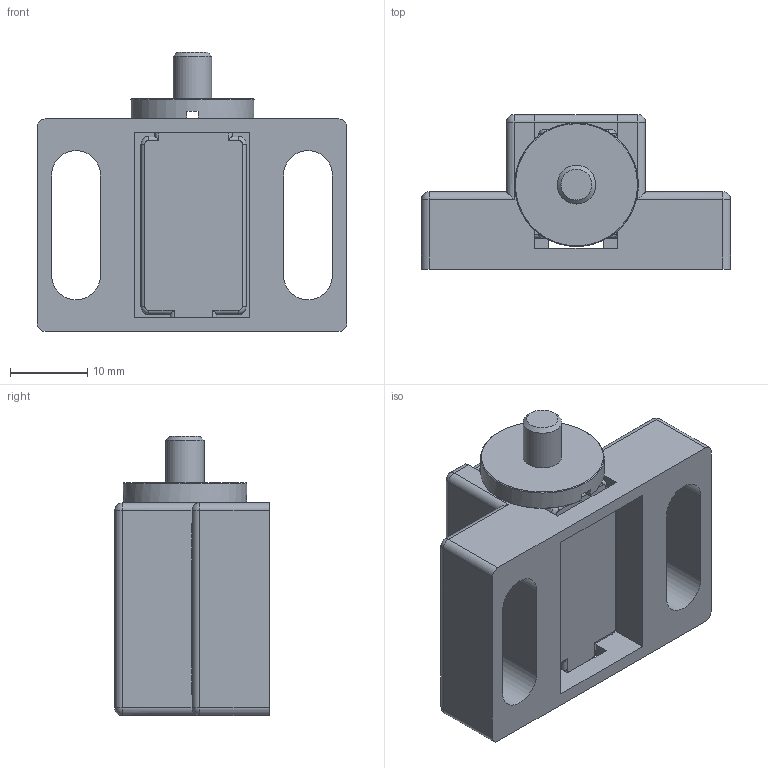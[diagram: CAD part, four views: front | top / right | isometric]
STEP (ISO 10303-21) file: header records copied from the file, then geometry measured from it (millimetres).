
FILE_DESCRIPTION((''),'2;1');
FILE_NAME('E:\catalogue and flyer\Profile catalogue 2015\Accessories ACC info\Accessories ACC step file 31Mar16\ACC-MGL.stp','2016-04-07T15:11:43',('h029'),(''),'Autodesk Inventor 11','Autodesk Inventor 11','');
FILE_SCHEMA(('AUTOMOTIVE_DESIGN { 1 0 10303 214 1 1 1 1 }'));
Length unit declared in the file: millimetre
Products named in the file (5): Magnetic Block; Pastic Case; Magnetic Plate; Magnetic; Head Screw
Assembly tree (5 placements, depth 2):
  Magnetic Block
    Pastic Case
    Magnetic Plate  x2
    Magnetic
    Head Screw
Bounding box: 40 x 20 x 36.1 mm (x, y, z)
Volume: 11507.8 mm3; surface area: 9435.3 mm2
Topology: 5 solids, 5 shells, 166 faces, 406 edges, 242 vertices
Faces by surface type: plane 70, cylinder 68, torus 10, sphere 8, bspline 6, cone 4
Full cylindrical faces by diameter (mm): 5 x1, 16 x1
Entity records: 3824 total; most frequent: CARTESIAN_POINT 740, DIRECTION 658, ORIENTED_EDGE 586, EDGE_CURVE 293, AXIS2_PLACEMENT_3D 234, VECTOR 190, LINE 190, VERTEX_POINT 181
